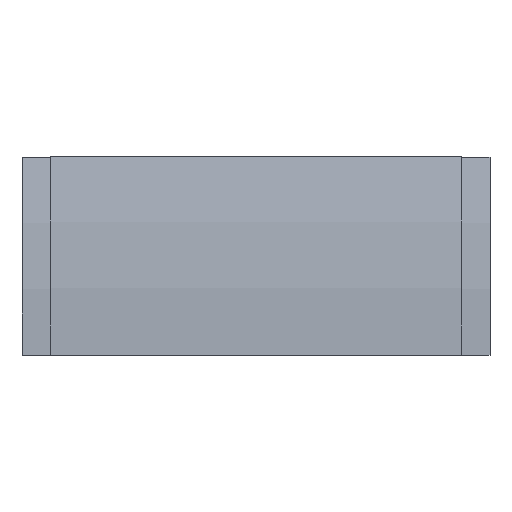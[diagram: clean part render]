
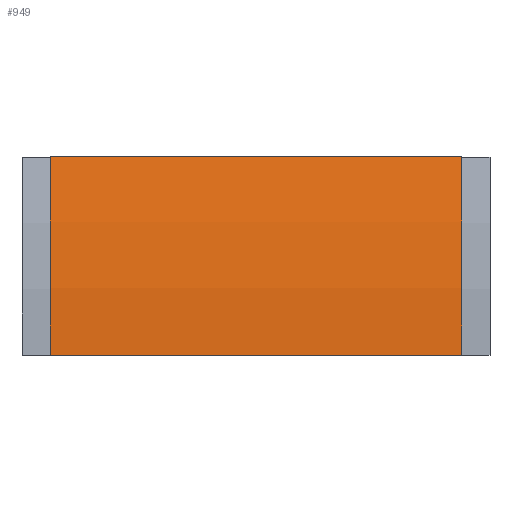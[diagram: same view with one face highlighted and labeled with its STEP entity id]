
A CAD part, front view. The second image highlights one B-rep face of the part: STEP entity #949.
In plain terms, the highlighted cylindrical face has radius 568 mm (diameter 1136 mm), a partial arc.
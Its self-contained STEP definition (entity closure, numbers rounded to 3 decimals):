
#90 = LINE ( 'NONE', #671, #123 ) ;
#123 = VECTOR ( 'NONE', #668, 1000. ) ;
#129 = CYLINDRICAL_SURFACE ( 'NONE', #763, 568. ) ;
#132 = FACE_OUTER_BOUND ( 'NONE', #420, .T. ) ;
#156 = CIRCLE ( 'NONE', #816, 568. ) ;
#162 = VECTOR ( 'NONE', #465, 1000. ) ;
#165 = LINE ( 'NONE', #466, #162 ) ;
#171 = CIRCLE ( 'NONE', #823, 568. ) ;
#347 = ORIENTED_EDGE ( 'NONE', *, *, #869, .F. ) ;
#348 = ORIENTED_EDGE ( 'NONE', *, *, #860, .F. ) ;
#349 = ORIENTED_EDGE ( 'NONE', *, *, #852, .T. ) ;
#353 = VERTEX_POINT ( 'NONE', #554 ) ;
#362 = VERTEX_POINT ( 'NONE', #550 ) ;
#365 = VERTEX_POINT ( 'NONE', #547 ) ;
#386 = VERTEX_POINT ( 'NONE', #526 ) ;
#420 = EDGE_LOOP ( 'NONE', ( #347, #348, #349, #442 ) ) ;
#442 = ORIENTED_EDGE ( 'NONE', *, *, #966, .T. ) ;
#452 = DIRECTION ( 'NONE',  ( 0., 0., -1. ) ) ;
#453 = DIRECTION ( 'NONE',  ( 1., 0., 0. ) ) ;
#454 = CARTESIAN_POINT ( 'NONE',  ( 152., 500., 0. ) ) ;
#465 = DIRECTION ( 'NONE',  ( 1., 0., 0. ) ) ;
#466 = CARTESIAN_POINT ( 'NONE',  ( -152., -48.646, 147.009 ) ) ;
#472 = DIRECTION ( 'NONE',  ( 0., 0., -1. ) ) ;
#473 = DIRECTION ( 'NONE',  ( 1., 0., 0. ) ) ;
#474 = CARTESIAN_POINT ( 'NONE',  ( -152., 500., 0. ) ) ;
#526 = CARTESIAN_POINT ( 'NONE',  ( -152., -68., 0. ) ) ;
#547 = CARTESIAN_POINT ( 'NONE',  ( 152., -48.646, 147.009 ) ) ;
#550 = CARTESIAN_POINT ( 'NONE',  ( -152., -48.646, 147.009 ) ) ;
#554 = CARTESIAN_POINT ( 'NONE',  ( 152., -68., 0. ) ) ;
#668 = DIRECTION ( 'NONE',  ( 1., 0., 0. ) ) ;
#671 = CARTESIAN_POINT ( 'NONE',  ( -152., -68., 0. ) ) ;
#763 = AXIS2_PLACEMENT_3D ( 'NONE', #850, #862, #859 ) ;
#816 = AXIS2_PLACEMENT_3D ( 'NONE', #454, #453, #452 ) ;
#823 = AXIS2_PLACEMENT_3D ( 'NONE', #474, #473, #472 ) ;
#850 = CARTESIAN_POINT ( 'NONE',  ( 0., 500., 0. ) ) ;
#852 = EDGE_CURVE ( 'NONE', #362, #386, #171, .T. ) ;
#859 = DIRECTION ( 'NONE',  ( 0., 0., -1. ) ) ;
#860 = EDGE_CURVE ( 'NONE', #362, #365, #165, .T. ) ;
#862 = DIRECTION ( 'NONE',  ( 1., 0., 0. ) ) ;
#869 = EDGE_CURVE ( 'NONE', #365, #353, #156, .T. ) ;
#949 = ADVANCED_FACE ( 'NONE', ( #132 ), #129, .T. ) ;
#966 = EDGE_CURVE ( 'NONE', #386, #353, #90, .T. ) ;
